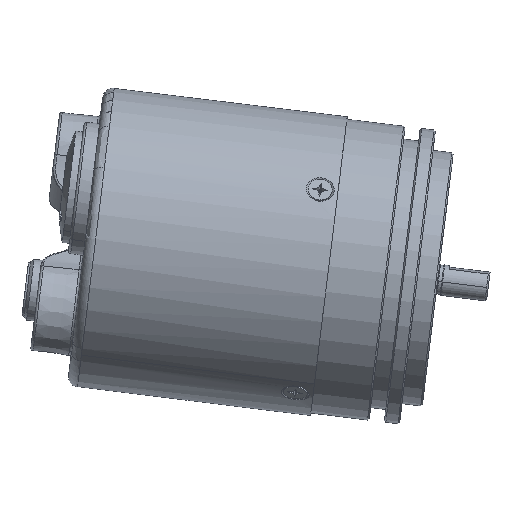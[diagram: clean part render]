
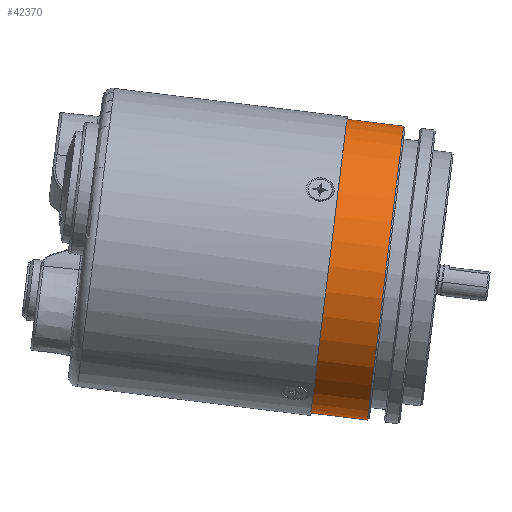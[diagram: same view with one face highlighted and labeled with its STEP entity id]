
A CAD part, front view. The second image highlights one B-rep face of the part: STEP entity #42370.
In plain terms, the highlighted cylindrical face has radius 29 mm (diameter 58 mm), a partial arc.
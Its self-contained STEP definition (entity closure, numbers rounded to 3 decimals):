
#764 = VERTEX_POINT ( 'NONE', #82679 ) ;
#1484 = CARTESIAN_POINT ( 'NONE',  ( 0.807, 0., -31.468 ) ) ;
#2498 = ORIENTED_EDGE ( 'NONE', *, *, #29664, .F. ) ;
#3064 = VECTOR ( 'NONE', #10896, 1000. ) ;
#9107 = EDGE_CURVE ( 'NONE', #764, #31958, #35241, .T. ) ;
#10896 = DIRECTION ( 'NONE',  ( -0.993, 0., 0.122 ) ) ;
#20720 = CIRCLE ( 'NONE', #51377, 29. ) ;
#25925 = CYLINDRICAL_SURFACE ( 'NONE', #54904, 29. ) ;
#27186 = DIRECTION ( 'NONE',  ( -0.993, 0., 0.122 ) ) ;
#29664 = EDGE_CURVE ( 'NONE', #78508, #31958, #47652, .T. ) ;
#31056 = DIRECTION ( 'NONE',  ( -0.993, 0., 0.122 ) ) ;
#31174 = CARTESIAN_POINT ( 'NONE',  ( -14.219, 0., -0.405 ) ) ;
#31568 = DIRECTION ( 'NONE',  ( 0.122, 0., 0.993 ) ) ;
#31958 = VERTEX_POINT ( 'NONE', #58728 ) ;
#35241 = LINE ( 'NONE', #63348, #53015 ) ;
#42370 = ADVANCED_FACE ( 'NONE', ( #50516 ), #25925, .T. ) ;
#42836 = VERTEX_POINT ( 'NONE', #1484 ) ;
#43548 = LINE ( 'NONE', #75956, #3064 ) ;
#47652 = CIRCLE ( 'NONE', #79021, 29. ) ;
#50516 = FACE_OUTER_BOUND ( 'NONE', #67736, .T. ) ;
#51377 = AXIS2_PLACEMENT_3D ( 'NONE', #70366, #27186, #77690 ) ;
#51779 = DIRECTION ( 'NONE',  ( 0.122, 0., 0.993 ) ) ;
#51789 = DIRECTION ( 'NONE',  ( -0.993, 0., 0.122 ) ) ;
#51888 = CARTESIAN_POINT ( 'NONE',  ( -6.775, 0., -1.319 ) ) ;
#53015 = VECTOR ( 'NONE', #54518, 1000. ) ;
#54518 = DIRECTION ( 'NONE',  ( -0.993, 0., 0.122 ) ) ;
#54904 = AXIS2_PLACEMENT_3D ( 'NONE', #31174, #31056, #31568 ) ;
#58728 = CARTESIAN_POINT ( 'NONE',  ( -3.241, 0., 27.465 ) ) ;
#63348 = CARTESIAN_POINT ( 'NONE',  ( -10.685, 0., 28.379 ) ) ;
#67681 = ORIENTED_EDGE ( 'NONE', *, *, #93186, .F. ) ;
#67736 = EDGE_LOOP ( 'NONE', ( #67681, #68165, #73943, #2498 ) ) ;
#68165 = ORIENTED_EDGE ( 'NONE', *, *, #77711, .T. ) ;
#70366 = CARTESIAN_POINT ( 'NONE',  ( 4.341, 0., -2.684 ) ) ;
#73393 = CARTESIAN_POINT ( 'NONE',  ( -10.31, 0., -30.103 ) ) ;
#73943 = ORIENTED_EDGE ( 'NONE', *, *, #9107, .T. ) ;
#75956 = CARTESIAN_POINT ( 'NONE',  ( -17.754, 0., -29.189 ) ) ;
#77690 = DIRECTION ( 'NONE',  ( 0.122, 0., 0.993 ) ) ;
#77711 = EDGE_CURVE ( 'NONE', #42836, #764, #20720, .T. ) ;
#78508 = VERTEX_POINT ( 'NONE', #73393 ) ;
#79021 = AXIS2_PLACEMENT_3D ( 'NONE', #51888, #51789, #51779 ) ;
#82679 = CARTESIAN_POINT ( 'NONE',  ( 7.875, 0., 26.1 ) ) ;
#93186 = EDGE_CURVE ( 'NONE', #42836, #78508, #43548, .T. ) ;
